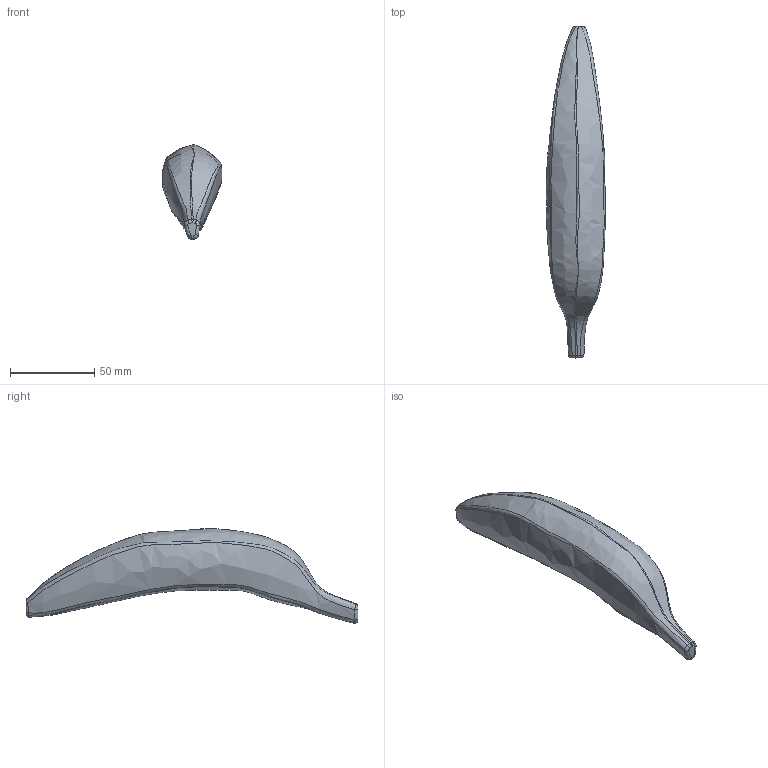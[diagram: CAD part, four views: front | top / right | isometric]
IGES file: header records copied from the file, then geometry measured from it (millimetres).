
Global section: file name: bananaforscale; native system: Autodesk Inventor 2016; preprocessor: unknown; author: Stephan; date: 20151117.153848; units: millimetre
Bounding box: 35.53 x 196.75 x 56.06 mm (x, y, z)
Volume: 138090.7 mm3; surface area: 18727.9 mm2
Topology: 1 solids, 1 shells, 32 faces, 70 edges, 40 vertices
Faces by surface type: bspline 32
